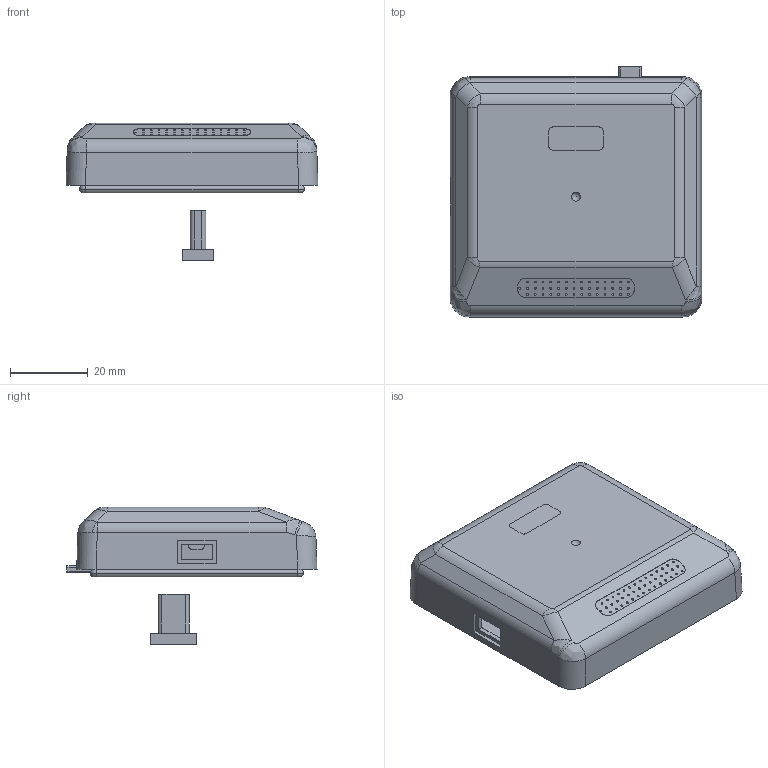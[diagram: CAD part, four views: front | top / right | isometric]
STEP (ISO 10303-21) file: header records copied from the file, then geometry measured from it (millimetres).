
FILE_DESCRIPTION(/* description */ (''),/* implementation_level */ '2;1');
FILE_NAME(/* name */ '教师组样题3.stp',/* time_stamp */ '2023-04-14T23:09:40+08:00',/* author */ (''),/* organization */ (''),/* preprocessor_version */ 'ST-DEVELOPER v16.7',/* originating_system */ 'SIEMENS PLM Software NX 12.0',/* authorisation */ '');
FILE_SCHEMA (('AUTOMOTIVE_DESIGN { 1 0 10303 214 3 1 1 1 }'));
Length unit declared in the file: millimetre
Products named in the file (1): 教师组样题3_stp
Bounding box: 65 x 64.5 x 35.5 mm (x, y, z)
Volume: 20834.6 mm3; surface area: 22910.5 mm2
Topology: 6 solids, 6 shells, 289 faces, 744 edges, 476 vertices
Faces by surface type: cylinder 104, plane 101, extrusion 43, bspline 40, sphere 1
Full cylindrical faces by diameter (mm): 1.5 x4, 3 x4, 5 x4, 6 x4
Entity records: 15867 total; most frequent: CARTESIAN_POINT 9012, ORIENTED_EDGE 1350, DIRECTION 1293, EDGE_CURVE 675, AXIS2_PLACEMENT_3D 469, VERTEX_POINT 467, EDGE_LOOP 466, VECTOR 355
